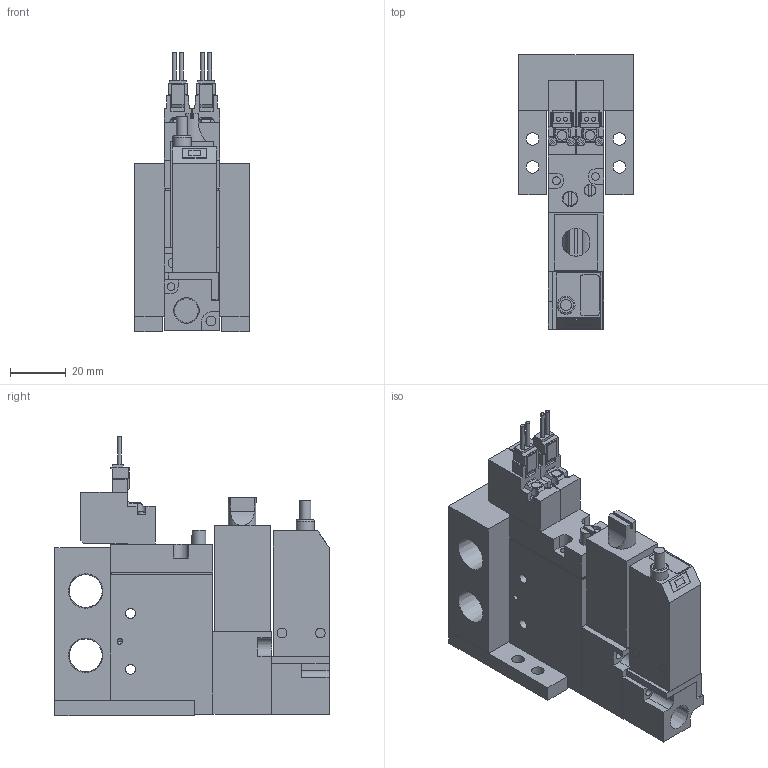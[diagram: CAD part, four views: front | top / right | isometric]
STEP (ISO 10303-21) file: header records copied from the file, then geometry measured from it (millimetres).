
FILE_DESCRIPTION(('STEP AP203'),'1');
FILE_NAME('BMPV32M2NAB25BL101.stp','2025-06-17T00:15:11',(' '),(' '),'Spatial InterOp 3D',' ',' ');
FILE_SCHEMA(('CONFIG_CONTROL_DESIGN'));
Length unit declared in the file: millimetre
Products named in the file (16): BMPV32M2NAB25BL101; Filter Assy; __; _____; Pressure sensor ABSL; MB BRACKET; MB01; ___ ___2; ___-2(Rc); ___; upper plate-A; ______; ____; VACUUM VALVE FUNCTION MPV42-A
Assembly tree (15 placements, depth 2):
  BMPV32M2NAB25BL101
    Filter Assy
    __
    _____
    Pressure sensor ABSL
    MB BRACKET
    MB BRACKET
    MB01
    ___ ___2
    ___-2(Rc)
    ___
    upper plate-A
    ______
    ____
    VACUUM VALVE FUNCTION MPV42-A
    VACUUM VALVE FUNCTION MPV42-A
Bounding box: 41 x 98 x 99.75 mm (x, y, z)
Volume: 137668.7 mm3; surface area: 47975.4 mm2
Topology: 15 solids, 15 shells, 415 faces, 1060 edges, 703 vertices
Faces by surface type: plane 319, cylinder 81, cone 14, torus 1
Full cylindrical faces by diameter (mm): 1.4 x4, 1.8 x2, 2 x2, 2.5 x6, 2.8 x4, 3 x4, 3.5 x16, 4 x2, 4.2 x1, 4.5 x4, 5 x1, 5.5 x1, 6.5 x7, 8.522 x1, 11.776 x2
Entity records: 12900 total; most frequent: CARTESIAN_POINT 2160, DIRECTION 2026, ORIENTED_EDGE 1930, EDGE_CURVE 965, LINE 758, VECTOR 758, VERTEX_POINT 690, AXIS2_PLACEMENT_3D 634
